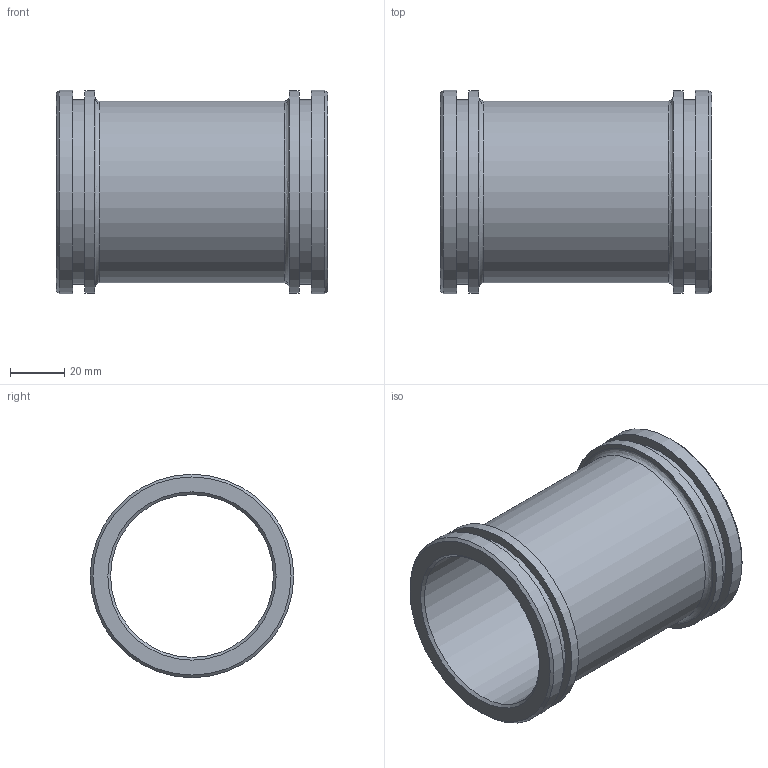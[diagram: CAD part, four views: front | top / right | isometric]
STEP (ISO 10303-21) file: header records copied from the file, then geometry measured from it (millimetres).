
FILE_DESCRIPTION((''),'2;1');
FILE_NAME('N:\CAD\ARCHIV\5350 (-999)\Standardhülsen\5350.060.100\Kundenteil 3D\5350.060.100 Kunden.stp','2011-09-15T10:52:33',('sschwock'),(''),'Autodesk Inventor 2009','Autodesk Inventor 2009','');
FILE_SCHEMA(('AUTOMOTIVE_DESIGN { 1 0 10303 214 1 1 1 1 }'));
Length unit declared in the file: millimetre
Products named in the file (1): Hülse für Kunden
Bounding box: 100 x 75 x 75 mm (x, y, z)
Volume: 87321.4 mm3; surface area: 47440.6 mm2
Topology: 1 solids, 1 shells, 22 faces, 36 edges, 22 vertices
Faces by surface type: plane 8, cylinder 8, cone 4, bspline 2
Full cylindrical faces by diameter (mm): 60 x1, 67 x1, 67.94 x2, 74.5 x2, 75 x2
Entity records: 554 total; most frequent: CARTESIAN_POINT 155, DIRECTION 86, ORIENTED_EDGE 44, EDGE_LOOP 44, AXIS2_PLACEMENT_3D 43, VERTEX_POINT 22, CIRCLE 22, EDGE_CURVE 22
